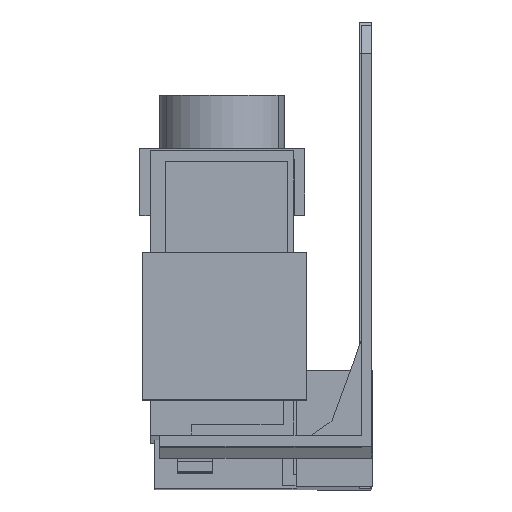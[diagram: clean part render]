
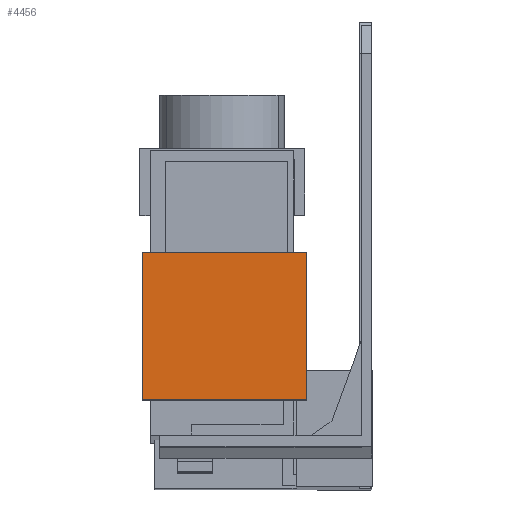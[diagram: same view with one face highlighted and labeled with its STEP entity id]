
A CAD part, front view. The second image highlights one B-rep face of the part: STEP entity #4456.
In plain terms, the highlighted planar face has unit normal (0, -1, 0.003).
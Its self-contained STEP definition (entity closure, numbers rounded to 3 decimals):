
#572 = AXIS2_PLACEMENT_3D ( 'NONE', #1343, #1349, #1350 ) ;
#819 = CARTESIAN_POINT ( 'NONE',  ( -9.3, -31.452, -19.316 ) ) ;
#1340 = PLANE ( 'NONE',  #572 ) ;
#1343 = CARTESIAN_POINT ( 'NONE',  ( -9.3, -31.509, -40.315 ) ) ;
#1349 = DIRECTION ( 'NONE',  ( 0., -1., 0.003 ) ) ;
#1350 = DIRECTION ( 'NONE',  ( 1., 0., 0. ) ) ;
#1739 = CARTESIAN_POINT ( 'NONE',  ( -32.7, -31.452, -19.316 ) ) ;
#2027 = CARTESIAN_POINT ( 'NONE',  ( -9.3, -31.452, -19.316 ) ) ;
#2038 = DIRECTION ( 'NONE',  ( -1., 0., 0. ) ) ;
#2086 = CARTESIAN_POINT ( 'NONE',  ( -32.7, -31.509, -40.315 ) ) ;
#2087 = DIRECTION ( 'NONE',  ( 0., 0.003, 1. ) ) ;
#2206 = CARTESIAN_POINT ( 'NONE',  ( -9.3, -31.509, -40.315 ) ) ;
#2207 = DIRECTION ( 'NONE',  ( 0., 0.003, 1. ) ) ;
#2775 = CARTESIAN_POINT ( 'NONE',  ( -9.3, -31.509, -40.315 ) ) ;
#2776 = DIRECTION ( 'NONE',  ( -1., 0., 0. ) ) ;
#2795 = CARTESIAN_POINT ( 'NONE',  ( -32.7, -31.509, -40.315 ) ) ;
#2798 = CARTESIAN_POINT ( 'NONE',  ( -9.3, -31.509, -40.315 ) ) ;
#3307 = LINE ( 'NONE', #2775, #3308 ) ;
#3308 = VECTOR ( 'NONE', #2776, 1000. ) ;
#4260 = VERTEX_POINT ( 'NONE', #819 ) ;
#4456 = ADVANCED_FACE ( 'NONE', ( #7212 ), #1340, .T. ) ;
#4761 = VERTEX_POINT ( 'NONE', #1739 ) ;
#4895 = EDGE_CURVE ( 'NONE', #4260, #4761, #7580, .T. ) ;
#4919 = EDGE_CURVE ( 'NONE', #5241, #4761, #7641, .T. ) ;
#4973 = EDGE_CURVE ( 'NONE', #5245, #4260, #7737, .T. ) ;
#5231 = EDGE_CURVE ( 'NONE', #5245, #5241, #3307, .T. ) ;
#5241 = VERTEX_POINT ( 'NONE', #2795 ) ;
#5245 = VERTEX_POINT ( 'NONE', #2798 ) ;
#6068 = ORIENTED_EDGE ( 'NONE', *, *, #4895, .T. ) ;
#6069 = ORIENTED_EDGE ( 'NONE', *, *, #4919, .F. ) ;
#6070 = ORIENTED_EDGE ( 'NONE', *, *, #5231, .F. ) ;
#6071 = ORIENTED_EDGE ( 'NONE', *, *, #4973, .T. ) ;
#6600 = EDGE_LOOP ( 'NONE', ( #6068, #6069, #6070, #6071 ) ) ;
#7212 = FACE_OUTER_BOUND ( 'NONE', #6600, .T. ) ;
#7580 = LINE ( 'NONE', #2027, #7594 ) ;
#7594 = VECTOR ( 'NONE', #2038, 1000. ) ;
#7641 = LINE ( 'NONE', #2086, #7642 ) ;
#7642 = VECTOR ( 'NONE', #2087, 1000. ) ;
#7737 = LINE ( 'NONE', #2206, #7738 ) ;
#7738 = VECTOR ( 'NONE', #2207, 1000. ) ;
